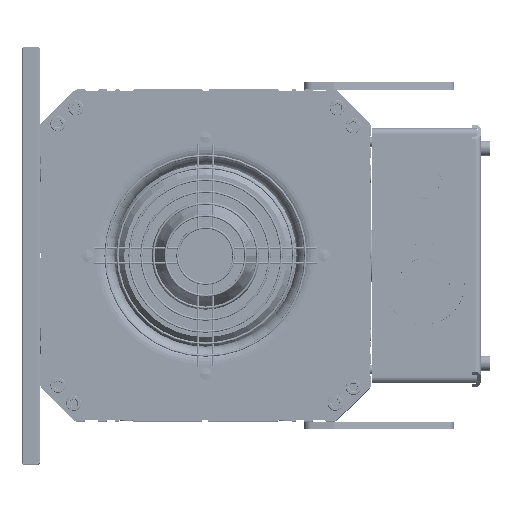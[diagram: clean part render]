
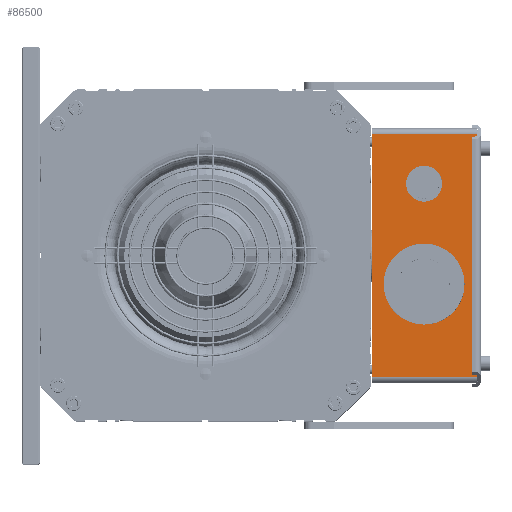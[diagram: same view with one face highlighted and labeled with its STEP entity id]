
A CAD part, top view. The second image highlights one B-rep face of the part: STEP entity #86500.
In plain terms, the highlighted planar face has unit normal (0, 0, 1) as drawn and (1, 0, 0) by its records, which use the part's own axes.
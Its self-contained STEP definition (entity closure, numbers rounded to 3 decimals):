
#83894=DIRECTION('',(0.,1.,0.));
#83895=VECTOR('',#83894,162.);
#83896=CARTESIAN_POINT('',(80.,-81.,0.));
#83897=LINE('',#83896,#83895);
#83979=DIRECTION('',(0.,0.,-1.));
#83980=VECTOR('',#83979,70.);
#83981=CARTESIAN_POINT('',(80.,-81.,70.));
#83982=LINE('',#83981,#83980);
#84499=DIRECTION('',(0.,0.,1.));
#84500=VECTOR('',#84499,70.);
#84501=CARTESIAN_POINT('',(80.,81.,0.));
#84502=LINE('',#84501,#84500);
#84507=CARTESIAN_POINT('',(80.,-48.,35.));
#84508=DIRECTION('',(1.,0.,0.));
#84509=DIRECTION('',(0.,0.,1.));
#84510=AXIS2_PLACEMENT_3D('',#84507,#84508,#84509);
#84512=CARTESIAN_POINT('',(80.,-48.,35.));
#84513=DIRECTION('',(1.,0.,0.));
#84514=DIRECTION('',(0.,0.,-1.));
#84515=AXIS2_PLACEMENT_3D('',#84512,#84513,#84514);
#84517=CARTESIAN_POINT('',(80.,19.,35.));
#84518=DIRECTION('',(1.,0.,0.));
#84519=DIRECTION('',(0.,0.,1.));
#84520=AXIS2_PLACEMENT_3D('',#84517,#84518,#84519);
#84522=CARTESIAN_POINT('',(80.,19.,35.));
#84523=DIRECTION('',(1.,0.,0.));
#84524=DIRECTION('',(0.,0.,-1.));
#84525=AXIS2_PLACEMENT_3D('',#84522,#84523,#84524);
#84527=DIRECTION('',(0.,1.,0.));
#84528=VECTOR('',#84527,162.);
#84529=CARTESIAN_POINT('',(80.,-81.,70.));
#84530=LINE('',#84529,#84528);
#85449=CARTESIAN_POINT('',(80.,-48.,43.));
#85450=CARTESIAN_POINT('',(80.,-48.,27.));
#85451=VERTEX_POINT('',#85449);
#85452=VERTEX_POINT('',#85450);
#85453=CARTESIAN_POINT('',(80.,19.,55.75));
#85454=CARTESIAN_POINT('',(80.,19.,14.25));
#85455=VERTEX_POINT('',#85453);
#85456=VERTEX_POINT('',#85454);
#85721=CARTESIAN_POINT('',(80.,-81.,0.));
#85723=VERTEX_POINT('',#85721);
#85734=CARTESIAN_POINT('',(80.,81.,0.));
#85736=VERTEX_POINT('',#85734);
#85753=CARTESIAN_POINT('',(80.,81.,70.));
#85755=VERTEX_POINT('',#85753);
#85766=CARTESIAN_POINT('',(80.,-81.,70.));
#85768=VERTEX_POINT('',#85766);
#86477=CARTESIAN_POINT('',(80.,-85.,0.));
#86478=DIRECTION('',(1.,0.,0.));
#86479=DIRECTION('',(0.,1.,0.));
#86480=AXIS2_PLACEMENT_3D('',#86477,#86478,#86479);
#86481=PLANE('',#86480);
#86482=ORIENTED_EDGE('',*,*,#86468,.F.);
#86483=ORIENTED_EDGE('',*,*,#85776,.F.);
#86484=ORIENTED_EDGE('',*,*,#85832,.F.);
#86485=ORIENTED_EDGE('',*,*,#86394,.T.);
#86486=EDGE_LOOP('',(#86482,#86483,#86484,#86485));
#86487=FACE_OUTER_BOUND('',#86486,.F.);
#86489=ORIENTED_EDGE('',*,*,#86488,.T.);
#86491=ORIENTED_EDGE('',*,*,#86490,.T.);
#86492=EDGE_LOOP('',(#86489,#86491));
#86493=FACE_BOUND('',#86492,.F.);
#86495=ORIENTED_EDGE('',*,*,#86494,.T.);
#86497=ORIENTED_EDGE('',*,*,#86496,.T.);
#86498=EDGE_LOOP('',(#86495,#86497));
#86499=FACE_BOUND('',#86498,.F.);
#86500=ADVANCED_FACE('',(#86487,#86493,#86499),#86481,.T.);
#84511=CIRCLE('',#84510,8.);
#84516=CIRCLE('',#84515,8.);
#84521=CIRCLE('',#84520,20.75);
#84526=CIRCLE('',#84525,20.75);
#85776=EDGE_CURVE('',#85723,#85736,#83897,.T.);
#85832=EDGE_CURVE('',#85768,#85723,#83982,.T.);
#86394=EDGE_CURVE('',#85768,#85755,#84530,.T.);
#86468=EDGE_CURVE('',#85736,#85755,#84502,.T.);
#86488=EDGE_CURVE('',#85455,#85456,#84521,.T.);
#86490=EDGE_CURVE('',#85456,#85455,#84526,.T.);
#86494=EDGE_CURVE('',#85451,#85452,#84511,.T.);
#86496=EDGE_CURVE('',#85452,#85451,#84516,.T.);
